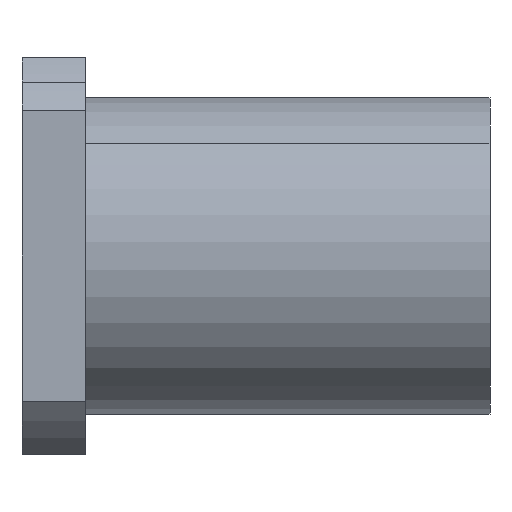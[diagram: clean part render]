
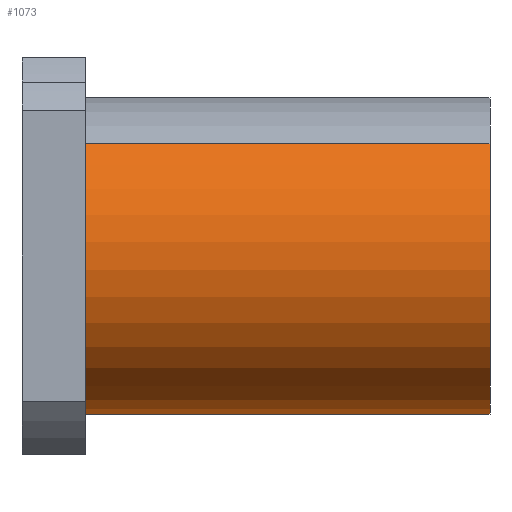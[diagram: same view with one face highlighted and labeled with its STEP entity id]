
A CAD part, front view. The second image highlights one B-rep face of the part: STEP entity #1073.
In plain terms, the highlighted cylindrical face has radius 20 mm (diameter 40 mm), a partial arc.
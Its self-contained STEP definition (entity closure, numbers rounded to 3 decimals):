
#8 = EDGE_CURVE ( 'NONE', #246, #913, #546, .T. ) ;
#13 = CARTESIAN_POINT ( 'NONE',  ( 59., -14.142, 14.142 ) ) ;
#27 = DIRECTION ( 'NONE',  ( 0., 0.707, -0.707 ) ) ;
#35 = DIRECTION ( 'NONE',  ( 0., 0.707, -0.707 ) ) ;
#80 = CARTESIAN_POINT ( 'NONE',  ( 59., 14.142, -14.142 ) ) ;
#88 = LINE ( 'NONE', #150, #529 ) ;
#150 = CARTESIAN_POINT ( 'NONE',  ( 59., -14.142, 14.142 ) ) ;
#156 = ORIENTED_EDGE ( 'NONE', *, *, #527, .F. ) ;
#215 = CARTESIAN_POINT ( 'NONE',  ( 8., -14.142, 14.142 ) ) ;
#246 = VERTEX_POINT ( 'NONE', #215 ) ;
#263 = VERTEX_POINT ( 'NONE', #80 ) ;
#288 = EDGE_CURVE ( 'NONE', #950, #246, #88, .T. ) ;
#328 = ORIENTED_EDGE ( 'NONE', *, *, #288, .T. ) ;
#380 = CARTESIAN_POINT ( 'NONE',  ( 59., 0., 0. ) ) ;
#383 = CIRCLE ( 'NONE', #1040, 20. ) ;
#403 = CARTESIAN_POINT ( 'NONE',  ( 59., 0., 0. ) ) ;
#477 = DIRECTION ( 'NONE',  ( -1., 0., 0. ) ) ;
#479 = DIRECTION ( 'NONE',  ( 1., 0., 0. ) ) ;
#527 = EDGE_CURVE ( 'NONE', #950, #263, #383, .T. ) ;
#529 = VECTOR ( 'NONE', #1057, 1000. ) ;
#546 = CIRCLE ( 'NONE', #719, 20. ) ;
#551 = CYLINDRICAL_SURFACE ( 'NONE', #1145, 20. ) ;
#568 = VECTOR ( 'NONE', #570, 1000. ) ;
#570 = DIRECTION ( 'NONE',  ( -1., 0., 0. ) ) ;
#648 = CARTESIAN_POINT ( 'NONE',  ( 59., 14.142, -14.142 ) ) ;
#719 = AXIS2_PLACEMENT_3D ( 'NONE', #991, #1094, #27 ) ;
#733 = CARTESIAN_POINT ( 'NONE',  ( 8., 14.142, -14.142 ) ) ;
#765 = DIRECTION ( 'NONE',  ( 0., 0.707, -0.707 ) ) ;
#791 = ORIENTED_EDGE ( 'NONE', *, *, #999, .F. ) ;
#913 = VERTEX_POINT ( 'NONE', #733 ) ;
#920 = LINE ( 'NONE', #648, #568 ) ;
#950 = VERTEX_POINT ( 'NONE', #13 ) ;
#961 = EDGE_LOOP ( 'NONE', ( #156, #328, #1129, #791 ) ) ;
#991 = CARTESIAN_POINT ( 'NONE',  ( 8., 0., 0. ) ) ;
#999 = EDGE_CURVE ( 'NONE', #263, #913, #920, .T. ) ;
#1018 = FACE_OUTER_BOUND ( 'NONE', #961, .T. ) ;
#1040 = AXIS2_PLACEMENT_3D ( 'NONE', #380, #479, #765 ) ;
#1057 = DIRECTION ( 'NONE',  ( -1., 0., 0. ) ) ;
#1073 = ADVANCED_FACE ( 'NONE', ( #1018 ), #551, .T. ) ;
#1094 = DIRECTION ( 'NONE',  ( 1., 0., 0. ) ) ;
#1129 = ORIENTED_EDGE ( 'NONE', *, *, #8, .T. ) ;
#1145 = AXIS2_PLACEMENT_3D ( 'NONE', #403, #477, #35 ) ;
